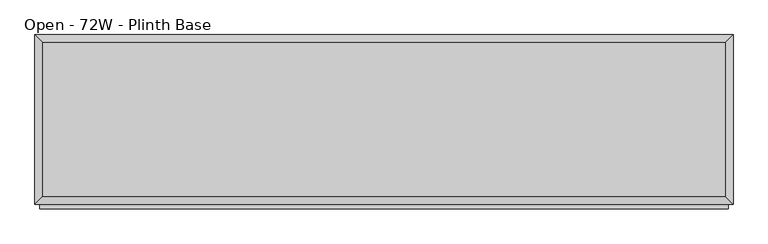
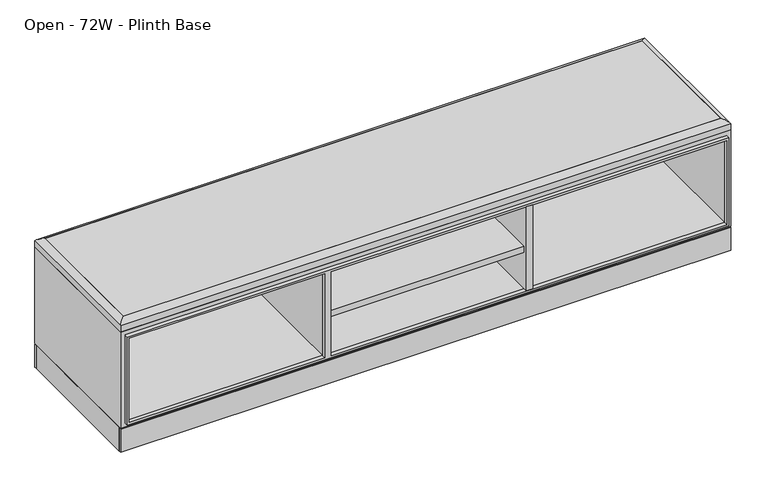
"""IFC4 building model written with IfcOpenShell, lengths in millimetres: furniture geometry, Steelcase Coalesse - Exponents - Seating - Bench : Open - 72W - Plinth Base."""

from ifc_helpers import new_model, si_unit, frame, origin, place, context, project, spatial, polyline, ellipse_curve, outline, extrude, faceted_brep, source, transform, mapped, element, save
from ifc_brep_helpers import plane_surface, cylinder_surface, advanced_brep


def open_72w_plinth_base_679fb57c(model_context):
    return source(origin(), model_context, "Body", "SolidModel", [
        extrude(outline(polyline([(1209.548, 12.7), (623.824, 12.7), (623.824, 438.15), (1209.548, 438.15), (1209.548, 12.7)])), frame((0.0, 0.0, 215.9), z_axis=(0.0, 0.0, 1.0), x_axis=(1.0, 0.0, 0.0)), (0.0, 0.0, 1.0), 19.05),
        advanced_brep(
        [(0.0, 12.7, 406.6283237), (0.0, 12.7, 387.35), (1828.8, 12.7, 387.35), (1828.8, 12.7, 406.6283237), (1828.8, 457.2, 406.6283237), (1828.8, 457.2, 387.35), (0.0, 457.2, 387.35), (0.0, 457.2, 406.6283237), (1809.75, 31.75, 406.6283237), (1809.75, 438.15, 406.6283237), (19.05, 438.15, 406.6283237), (19.05, 31.75, 406.6283237), (1809.75, 438.15, 419.0696271), (1809.75, 31.75, 419.0696271), (19.05, 31.75, 419.0696271), (19.05, 438.15, 419.0696271)],
        [
            (0, 1),
            (1, 2),
            (2, 3),
            (3, 0),
            (4, 5),
            (5, 6),
            (6, 7),
            (7, 4),
            (8, 9),
            (9, 10),
            (10, 11),
            (11, 8),
            (0, 7),
            (6, 1),
            (5, 2),
            (4, 3),
            (12, 9),
            (8, 13),
            (13, 12),
            (13, 3, ellipse_curve(frame((1808.1973666, 33.3026334, 395.8870134), z_axis=(0.7071067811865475, 0.7071067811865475, 0.0), x_axis=(-0.7071067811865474, 0.7071067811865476, 0.0)), 32.8586138, 23.2345486)),
            (4, 12, ellipse_curve(frame((1808.1973666, 436.5973666, 395.8870134), z_axis=(0.7071067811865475, -0.7071067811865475, 0.0), x_axis=(0.7071067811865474, 0.7071067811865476, 0.0)), 32.8586138, 23.2345486)),
            (11, 14),
            (14, 13),
            (14, 0, ellipse_curve(frame((20.6026334, 33.3026334, 395.8870134), z_axis=(0.7071067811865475, -0.7071067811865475, 0.0), x_axis=(0.7071067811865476, 0.7071067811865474, 0.0)), 32.8586138, 23.2345486)),
            (10, 15),
            (15, 14),
            (15, 7, ellipse_curve(frame((20.6026334, 436.5973666, 395.8870134), z_axis=(-0.7071067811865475, -0.7071067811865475, 0.0), x_axis=(0.7071067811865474, -0.7071067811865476, 0.0)), 32.8586138, 23.2345486)),
            (12, 15),
        ],
        [
            plane_surface(frame((0.0, 12.7, 406.6283237), z_axis=(0.0, -1.0, 0.0), x_axis=(-1.0, 0.0, 0.0))),
            plane_surface(frame((0.0, 457.2, 406.6283237), z_axis=(0.0, 1.0, 0.0), x_axis=(1.0, 0.0, 0.0))),
            plane_surface(frame((1828.8, 12.7, 406.6283237), z_axis=(0.0, 0.0, 1.0), x_axis=(0.0, 1.0, 0.0))),
            plane_surface(frame((0.0, 12.7, 406.6283237), z_axis=(-1.0, 0.0, 1.9588398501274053e-12), x_axis=(0.0, 1.0, 0.0))),
            plane_surface(frame((0.0, 12.7, 387.35), z_axis=(0.0, 0.0, -1.0), x_axis=(0.0, 1.0, 0.0))),
            plane_surface(frame((1828.8, 12.7, 387.35), z_axis=(1.0, 0.0, 0.0), x_axis=(0.0, 1.0, 0.0))),
            plane_surface(frame((1809.75, 438.15, 406.6284102), z_axis=(-1.0, 0.0, 0.0), x_axis=(0.0, -1.0, 0.0))),
            cylinder_surface(frame((1808.1973666, 457.2, 395.8870134), z_axis=(0.0, 1.0, 0.0), x_axis=(1.0, 0.0, 0.0)), 23.2345486),
            plane_surface(frame((1809.75, 31.75, 406.6284102), z_axis=(0.0, 1.0, 0.0), x_axis=(-1.0, 0.0, 0.0))),
            cylinder_surface(frame((1828.8, 33.3026334, 395.8870134), z_axis=(1.0, 0.0, 0.0), x_axis=(0.0, -1.0, 0.0)), 23.2345486),
            plane_surface(frame((19.05, 31.75, 406.6284102), z_axis=(1.0, 0.0, 0.0), x_axis=(0.0, 1.0, 0.0))),
            cylinder_surface(frame((20.6026334, 12.7, 395.8870134), z_axis=(0.0, -1.0, 0.0), x_axis=(-1.0, 0.0, 0.0)), 23.2345486),
            plane_surface(frame((19.05, 438.15, 406.6284102), z_axis=(0.0, -1.0, 0.0), x_axis=(1.0, 0.0, 0.0))),
            cylinder_surface(frame((0.0, 436.5973666, 395.8870134), z_axis=(-1.0, 0.0, 0.0), x_axis=(0.0, 1.0, 0.0)), 23.2345486),
        ],
        [
            (0, [[1, 2, 3, 4]]),
            (1, [[5, 6, 7, 8]]),
            (2, [[9, 10, 11, 12]]),
            (3, [[-1, 13, -7, 14]]),
            (4, [[-2, -14, -6, 15]]),
            (5, [[-3, -15, -5, 16]]),
            (6, [[17, -9, 18, 19]]),
            (7, [[-19, 20, -16, 21]]),
            (8, [[-18, -12, 22, 23]]),
            (9, [[-20, -23, 24, -4]]),
            (10, [[-22, -11, 25, 26]]),
            (11, [[-24, -26, 27, -13]]),
            (12, [[-17, 28, -25, -10]]),
            (13, [[-21, -8, -27, -28]]),
        ],
    ),
        extrude(outline(polyline([(1228.598, 438.15), (1228.598, 0.0), (1209.548, 0.0), (1209.548, 438.15), (1228.598, 438.15)])), frame((0.0, 0.0, 101.6), z_axis=(0.0, 0.0, 1.0), x_axis=(1.0, 0.0, 0.0)), (0.0, 0.0, 1.0), 266.7),
        faceted_brep([(1828.8, 12.7, 387.35), (0.0, 12.7, 387.35), (0.0, 12.7, 82.55), (1828.8, 12.7, 82.55), (19.05, 12.7, 368.0968), (604.774, 12.7, 368.0968), (604.774, 12.7, 101.8032), (19.05, 12.7, 101.8032), (623.824, 12.7, 368.0968), (1809.75, 12.7, 368.0968), (1809.75, 12.7, 101.8032), (623.824, 12.7, 101.8032), (1828.8, 457.2, 387.35), (1828.8, 457.2, 82.55), (0.0, 457.2, 82.55), (0.0, 457.2, 387.35), (604.774, 438.15, 368.0968), (19.05, 438.15, 368.0968), (19.05, 438.15, 101.8032), (604.774, 438.15, 101.8032), (1809.75, 438.15, 368.0968), (623.824, 438.15, 368.0968), (623.824, 438.15, 101.8032), (1809.75, 438.15, 101.8032)], [[[0, 1, 2, 3], [4, 5, 6, 7], [8, 9, 10, 11]], [[12, 13, 14, 15]], [[1, 0, 12, 15]], [[2, 1, 15, 14]], [[3, 2, 14, 13]], [[0, 3, 13, 12]], [[16, 17, 18, 19]], [[20, 21, 22, 23]], [[17, 16, 5, 4]], [[18, 17, 4, 7]], [[19, 18, 7, 6]], [[16, 19, 6, 5]], [[21, 20, 9, 8]], [[22, 21, 8, 11]], [[23, 22, 11, 10]], [[20, 23, 10, 9]]]),
        extrude(outline(polyline([(1828.8, 457.2), (1828.8, 450.85), (0.0, 450.85), (0.0, 457.2), (1828.8, 457.2)])), frame((0.0, 0.0, 6.35), z_axis=(0.0, 0.0, 1.0), x_axis=(1.0, 0.0, 0.0)), (0.0, 0.0, 1.0), 73.4568),
        extrude(outline(polyline([(6.31225, 19.05), (0.0, 19.05), (0.0, 450.85), (6.31225, 450.85), (6.31225, 19.05)])), frame((0.0, 0.0, 6.35), z_axis=(0.0, 0.0, 1.0), x_axis=(1.0, 0.0, 0.0)), (0.0, 0.0, 1.0), 73.4568),
        extrude(outline(polyline([(1828.8, 19.05), (1828.8, 12.7), (0.0, 12.7), (0.0, 19.05), (1828.8, 19.05)])), frame((0.0, 0.0, 6.35), z_axis=(0.0, 0.0, 1.0), x_axis=(1.0, 0.0, 0.0)), (0.0, 0.0, 1.0), 73.4568),
        extrude(outline(polyline([(1828.8, 19.05), (1822.41225, 19.05), (1822.41225, 450.85), (1828.8, 450.85), (1828.8, 19.05)])), frame((0.0, 0.0, 6.35), z_axis=(0.0, 0.0, 1.0), x_axis=(1.0, 0.0, 0.0)), (0.0, 0.0, 1.0), 73.4568),
        extrude(outline(polyline([(1823.93625, 452.374), (1823.93625, 17.526), (4.78825, 17.526), (4.78825, 452.374), (1823.93625, 452.374)]), holes=[polyline([(6.31225, 19.05), (1822.41225, 19.05), (1822.41225, 450.85), (6.31225, 450.85), (6.31225, 19.05)])]), frame((0.0, 0.0, 79.8068), z_axis=(0.0, 0.0, 1.0), x_axis=(1.0, 0.0, 0.0)), (0.0, 0.0, 1.0), 2.7432),
        extrude(outline(polyline([(1809.75, 31.75), (19.05, 31.75), (19.05, 438.15), (1809.75, 438.15), (1809.75, 31.75)])), frame((0.0, 0.0, 406.6283237), z_axis=(0.0, 0.0, 1.0), x_axis=(1.0, 0.0, 0.0)), (0.0, 0.0, 1.0), 12.4413034),
        extrude(outline(polyline([(374.4468, 1815.8206), (374.4468, 12.7), (95.4532, 12.7), (95.4532, 1815.8206), (374.4468, 1815.8206)]), holes=[polyline([(368.0968, 623.824), (368.0968, 1809.75), (101.8032, 1809.75), (101.8032, 623.824), (368.0968, 623.824)]), polyline([(368.0968, 604.774), (101.8032, 604.774), (101.8032, 19.05), (368.0968, 19.05), (368.0968, 604.774)])]), frame((0.0, 0.0, 0.0), z_axis=(0.0, 1.0, 0.0), x_axis=(0.0, 0.0, 1.0)), (0.0, 0.0, 1.0), 12.7),
    ])


if __name__ == "__main__":
    model = new_model("IFC4")
    model_context = context("Model", 3, world=origin())
    ifc_project = project(units=[si_unit("LENGTHUNIT", "METRE", prefix="MILLI")], contexts=[model_context])
    site = spatial("IfcSite", under=ifc_project)
    building = spatial("IfcBuilding", under=site)
    placement = place(None, origin())
    open_72w_plinth_base_shape = open_72w_plinth_base_679fb57c(model_context)
    element("IfcFurniture", 1, ObjectType="Steelcase Coalesse - Exponents - Seating - Bench : Open - 72W - Plinth Base", at=placement, inside=building, context=model_context, shape_type="MappedRepresentation", body=[
        mapped(open_72w_plinth_base_shape, transform((0.0, 0.0, 0.0), x_axis=(1.0, 0.0, 0.0), y_axis=(0.0, 1.0, 0.0), z_axis=(0.0, 0.0, 1.0))),
    ])
    save(model, "model.ifc")
